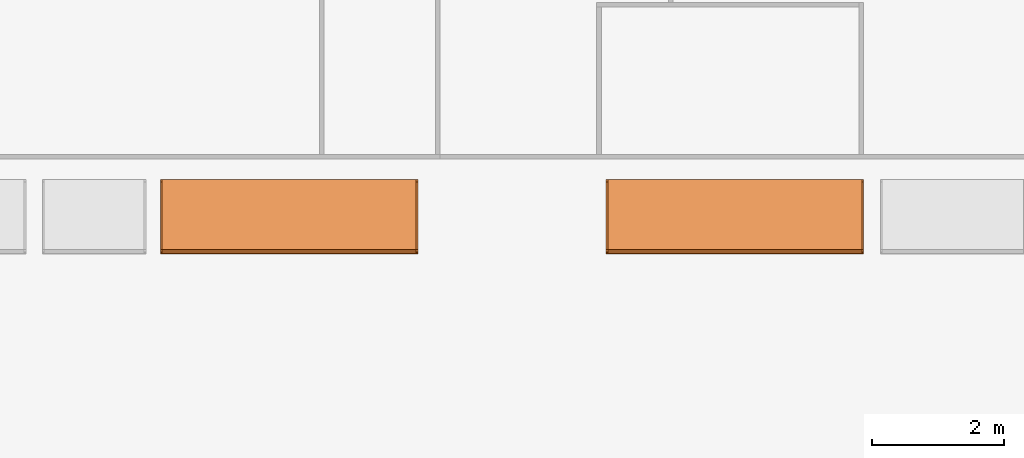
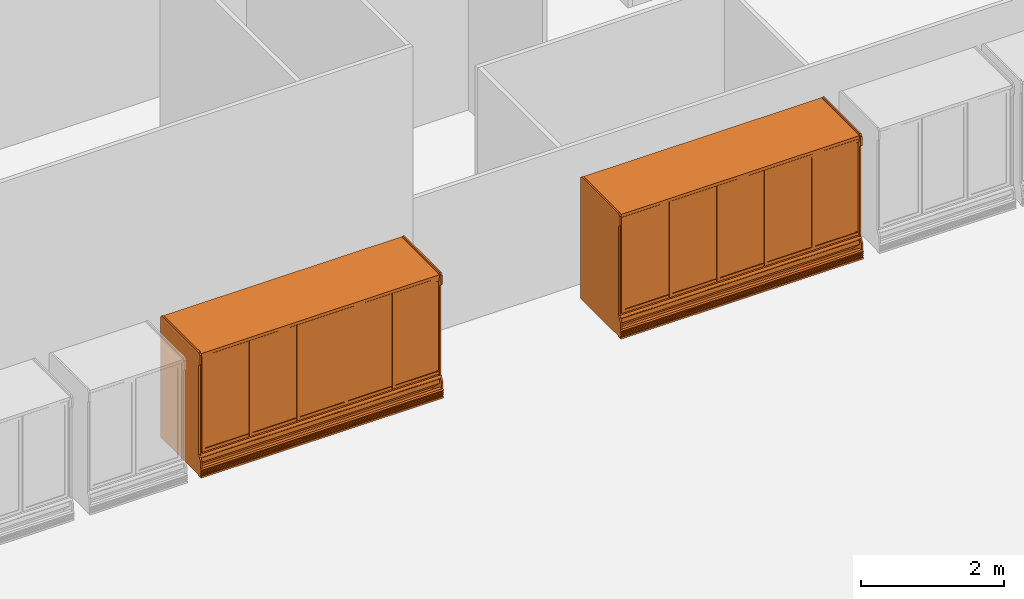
# One storey, part 7 of 11: 2 proxies.
"""IFC2X3 building model written with IfcOpenShell, lengths in metres."""

from ifc_helpers import new_model, entity, si_unit, converted_unit, derived_unit, direction, frame, frame_2d, origin, origin_2d_with_axis, place, context, subcontext, project, spatial, polyline, circle_curve, parameter, trimmed, segment, composite_curve, rectangle, outline, extrude, source, transform, mapped, material, material_list, type_object, type_shapes, element, save


model = new_model("IFC2X3")

# Units and contexts
model_context = context("Model", 3, precision=1e-05, world=origin(), true_north=direction((6.12303176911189e-17, 1.0)))
body_context = subcontext(model_context, "Body", "Model", "MODEL_VIEW")
ifc_project = project(units=[si_unit("LENGTHUNIT", "METRE"), si_unit("AREAUNIT", "SQUARE_METRE"), si_unit("VOLUMEUNIT", "CUBIC_METRE"), converted_unit("PLANEANGLEUNIT", "DEGREE", entity("IfcRatioMeasure", 0.0174532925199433), si_unit("PLANEANGLEUNIT", "RADIAN"), dimensions=[0, 0, 0, 0, 0, 0, 0]), si_unit("MASSUNIT", "GRAM", prefix="KILO"), derived_unit("MASSDENSITYUNIT", [(si_unit("MASSUNIT", "GRAM", prefix="KILO"), 1), (si_unit("LENGTHUNIT", "METRE"), -3)]), si_unit("TIMEUNIT", "SECOND"), si_unit("FREQUENCYUNIT", "HERTZ"), si_unit("THERMODYNAMICTEMPERATUREUNIT", "DEGREE_CELSIUS"), derived_unit("THERMALTRANSMITTANCEUNIT", [(si_unit("MASSUNIT", "GRAM", prefix="KILO"), 1), (si_unit("THERMODYNAMICTEMPERATUREUNIT", "KELVIN"), -1), (si_unit("TIMEUNIT", "SECOND"), -3)]), derived_unit("VOLUMETRICFLOWRATEUNIT", [(si_unit("LENGTHUNIT", "METRE"), 3), (si_unit("TIMEUNIT", "SECOND"), -1)]), si_unit("ELECTRICCURRENTUNIT", "AMPERE"), si_unit("ELECTRICVOLTAGEUNIT", "VOLT"), si_unit("POWERUNIT", "WATT"), si_unit("FORCEUNIT", "NEWTON", prefix="KILO"), si_unit("ILLUMINANCEUNIT", "LUX"), si_unit("LUMINOUSFLUXUNIT", "LUMEN"), si_unit("LUMINOUSINTENSITYUNIT", "CANDELA"), derived_unit("USERDEFINED", [(si_unit("MASSUNIT", "GRAM", prefix="KILO"), -1), (si_unit("LENGTHUNIT", "METRE"), -2), (si_unit("TIMEUNIT", "SECOND"), 3), (si_unit("LUMINOUSFLUXUNIT", "LUMEN"), 1)]), derived_unit("LINEARVELOCITYUNIT", [(si_unit("LENGTHUNIT", "METRE"), 1), (si_unit("TIMEUNIT", "SECOND"), -1)]), si_unit("PRESSUREUNIT", "PASCAL"), derived_unit("USERDEFINED", [(si_unit("LENGTHUNIT", "METRE"), -2), (si_unit("MASSUNIT", "GRAM", prefix="KILO"), 1), (si_unit("TIMEUNIT", "SECOND"), -2)])], contexts=[model_context])

# Site, building, storey
site_placement = place(None, origin())
site = spatial("IfcSite", under=ifc_project, at=site_placement, Name="Default", CompositionType="ELEMENT")
building_placement = place(site_placement, origin())
building = spatial("IfcBuilding", under=site, at=building_placement, CompositionType="ELEMENT")
storey_placement = place(building_placement, frame((0.0, 0.0, 1.49233632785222)))
storey = spatial("IfcBuildingStorey", under=building, at=storey_placement, Name="Niveau 0", CompositionType="ELEMENT", Elevation=1.49233632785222)

# Proxies
ifc_material_1 = material(Name="Métal - Chrome")
ifc_material_2 = material(Name="Verre")
ifc_material_3 = material(Name="Peinture - Blanc")
ifc_material_4 = material(Name="Peinture - Gris foncé")
ifc_material_list_1 = material_list([ifc_material_1, ifc_material_2, ifc_material_3, ifc_material_4])
ifc_material_list_2 = material_list([ifc_material_1, ifc_material_2, ifc_material_3, ifc_material_4])
building_element_proxy_type = type_object("IfcBuildingElementProxyType", Name="Longueur 3910 mm", PredefinedType="NOTDEFINED", material=ifc_material_list_2)
shared_shape = source(origin(), body_context, "Body", "SweptSolid", [
    extrude(outline(polyline([(-0.3937, -0.819150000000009), (0.3683, -0.819150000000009), (0.3683, -0.768350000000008), (-0.3429, -0.768350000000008), (-0.3429, 0.768350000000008), (0.3683, 0.768350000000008), (0.3683, 0.819150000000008), (-0.3937, 0.819150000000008), (-0.3937, -0.819150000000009)])), frame((0.211931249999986, 0.0126999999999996, 1.18745000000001), z_axis=(0.0, 1.0, 0.0), x_axis=(1.0, 0.0, 0.0)), (0.0, 0.0, 1.0), 0.0253999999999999),
    extrude(outline(polyline([(-0.3937, -0.819150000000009), (0.3683, -0.819150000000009), (0.3683, -0.768350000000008), (-0.3429, -0.768350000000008), (-0.3429, 0.768350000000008), (0.3683, 0.768350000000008), (0.3683, 0.819150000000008), (-0.3937, 0.819150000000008), (-0.3937, -0.819150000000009)])), frame((-0.556418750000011, 0.0126999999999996, 1.18745000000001), z_axis=(0.0, 1.0, 0.0), x_axis=(1.0, 0.0, 0.0)), (0.0, 0.0, 1.0), 0.0253999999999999),
    extrude(outline(polyline([(-0.3937, -0.819150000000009), (0.3683, -0.819150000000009), (0.3683, -0.768350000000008), (-0.3429, -0.768350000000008), (-0.3429, 0.768350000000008), (0.3683, 0.768350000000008), (0.3683, 0.819150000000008), (-0.3937, 0.819150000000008), (-0.3937, -0.819150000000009)])), frame((-1.32476875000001, 0.0126999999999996, 1.18745000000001), z_axis=(0.0, 1.0, 0.0), x_axis=(1.0, 0.0, 0.0)), (0.0, 0.0, 1.0), 0.0253999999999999),
    extrude(outline(polyline([(-0.3937, -0.819150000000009), (0.3683, -0.819150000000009), (0.3683, -0.768350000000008), (-0.3429, -0.768350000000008), (-0.3429, 0.768350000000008), (0.3683, 0.768350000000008), (0.3683, 0.819150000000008), (-0.3937, 0.819150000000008), (-0.3937, -0.819150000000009)])), frame((-2.09311875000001, 0.0126999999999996, 1.18745000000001), z_axis=(0.0, 1.0, 0.0), x_axis=(1.0, 0.0, 0.0)), (0.0, 0.0, 1.0), 0.0253999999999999),
    extrude(outline(polyline([(-0.902820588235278, -0.201945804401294), (-0.902820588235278, -0.214645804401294), (0.82437941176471, -0.214645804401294), (0.82437941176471, -0.201945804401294), (0.608479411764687, -0.201945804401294), (0.608479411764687, -0.0898341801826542), (0.589429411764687, -0.070784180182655), (0.589429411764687, 0.303324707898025), (0.570379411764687, 0.312207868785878), (0.570379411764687, -0.201945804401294), (0.316379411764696, -0.201945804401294), (0.316379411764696, -0.0851023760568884), (0.297329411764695, -0.0660523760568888), (0.297329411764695, 0.303324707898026), (0.278279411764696, 0.312207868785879), (0.278279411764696, -0.201945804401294), (0.0242794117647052, -0.201945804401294), (0.0242794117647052, -0.0803705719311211), (0.00522941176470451, -0.0613205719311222), (0.00522941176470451, 0.391796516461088), (-0.0138205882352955, 0.40067967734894), (-0.0138205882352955, -0.201945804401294), (-0.267820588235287, -0.201945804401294), (-0.267820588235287, -0.0851023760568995), (-0.286870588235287, -0.0660523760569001), (-0.286870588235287, 0.391796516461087), (-0.305920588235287, 0.400679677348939), (-0.305920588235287, -0.201945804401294), (-0.559920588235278, -0.201945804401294), (-0.559920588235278, -0.0803705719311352), (-0.578970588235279, -0.0613205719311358), (-0.578970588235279, 0.387979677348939), (-0.598020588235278, 0.394954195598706), (-0.598020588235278, -0.201945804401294), (-0.902820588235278, -0.201945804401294)])), frame((-2.10542815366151, 0.69975419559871, 1.12917941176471), z_axis=(-1.0, 0.0, 0.0), x_axis=(0.0, 0.0, -1.0)), (0.0, 0.0, -1.0), 0.0119188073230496),
    extrude(outline(polyline([(-0.902820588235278, -0.201945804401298), (-0.902820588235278, -0.214645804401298), (0.82437941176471, -0.214645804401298), (0.82437941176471, -0.201945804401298), (0.608479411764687, -0.201945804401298), (0.608479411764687, -0.089834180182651), (0.589429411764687, -0.0707841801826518), (0.589429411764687, 0.303324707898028), (0.570379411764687, 0.312207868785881), (0.570379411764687, -0.201945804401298), (0.316379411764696, -0.201945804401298), (0.316379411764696, -0.0851023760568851), (0.297329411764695, -0.0660523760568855), (0.297329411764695, 0.303324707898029), (0.278279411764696, 0.312207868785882), (0.278279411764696, -0.201945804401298), (0.0242794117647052, -0.201945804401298), (0.0242794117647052, -0.0803705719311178), (0.00522941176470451, -0.0613205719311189), (0.00522941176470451, 0.391796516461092), (-0.0138205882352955, 0.400679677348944), (-0.0138205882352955, -0.201945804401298), (-0.267820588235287, -0.201945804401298), (-0.267820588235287, -0.0851023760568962), (-0.286870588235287, -0.0660523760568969), (-0.286870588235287, 0.39179651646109), (-0.305920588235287, 0.400679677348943), (-0.305920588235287, -0.201945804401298), (-0.559920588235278, -0.201945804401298), (-0.559920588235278, -0.0803705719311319), (-0.578970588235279, -0.0613205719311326), (-0.578970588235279, 0.387979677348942), (-0.598020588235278, 0.394954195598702), (-0.598020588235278, -0.201945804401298), (-0.902820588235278, -0.201945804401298)])), frame((-0.556028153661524, 0.699754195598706, 1.12917941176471), z_axis=(-1.0, 0.0, 0.0), x_axis=(0.0, 0.0, -1.0)), (0.0, 0.0, -1.0), 0.0119188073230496),
    extrude(outline(polyline([(-0.3937, -0.819150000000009), (0.3683, -0.819150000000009), (0.3683, -0.768350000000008), (-0.3429, -0.768350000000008), (-0.3429, 0.768350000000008), (0.3683, 0.768350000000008), (0.3683, 0.819150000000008), (-0.3937, 0.819150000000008), (-0.3937, -0.819150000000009)])), frame((-2.86146875, 0.0126999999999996, 1.18745000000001), z_axis=(0.0, 1.0, 0.0), x_axis=(1.0, 0.0, 0.0)), (0.0, 0.0, 1.0), 0.0253999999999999),
    extrude(rectangle(XDim=0.00634999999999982, YDim=2.20345000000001, at=frame_2d((-2.16840434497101e-18, 0.0), x_axis=(1.0, 0.0))), frame((-0.565943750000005, 0.0285749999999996, 0.419100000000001), z_axis=(0.0, 0.0, 1.0), x_axis=(0.0, 1.0, 0.0)), (0.0, 0.0, 1.0), 1.53670000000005),
    extrude(rectangle(XDim=0.00634999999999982, YDim=1.49224999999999, at=frame_2d((-2.16840434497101e-18, -1.11022302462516e-16), x_axis=(1.0, 0.0))), frame((-2.46459375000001, 0.0285749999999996, 0.4191), z_axis=(0.0, 0.0, 1.0), x_axis=(0.0, 1.0, 0.0)), (0.0, 0.0, 1.0), 1.53669999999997),
    extrude(outline(polyline([(-0.88265, -1.9304), (0.882649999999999, -1.9304), (0.88265, 1.9304), (-0.882649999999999, 1.9304), (-0.88265, -1.9304)]), holes=[polyline([(-0.806450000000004, -0.0190500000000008), (-0.806450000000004, 1.8923), (0.80645, 1.8923), (0.80645, -0.0190500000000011), (0.806449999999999, -1.8923), (-0.806450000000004, -1.8923), (-0.806450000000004, -0.0190500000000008)])]), frame((-1.35651875, 0.0380999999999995, 1.18745), z_axis=(0.0, 1.0, 0.0), x_axis=(0.0, 0.0, -1.0)), (0.0, 0.0, 1.0), 0.0381),
    extrude(outline(composite_curve([segment(trimmed(circle_curve(frame_2d((-0.0095885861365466, 0.0), x_axis=(1.0, 0.0)), 0.0327139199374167), [parameter(287.043889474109)], [parameter(72.9561105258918)], True, "PARAMETER"), True, "CONTINUOUS"), segment(polyline([(0.0, 0.0312771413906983), (0.0, -0.0312771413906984)]), True, "CONTINUOUS")], self_intersect=False)), frame((-3.28691875, 0.0, 0.324322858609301), z_axis=(1.0, 0.0, 0.0), x_axis=(0.0, -1.0, 0.0)), (0.0, 0.0, 1.0), 3.8608),
    extrude(outline(polyline([(-0.058322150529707, -0.045007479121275), (-0.0317412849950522, -0.045007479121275), (-0.0206789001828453, -0.0360006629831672), (-0.0312750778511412, -0.0229861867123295), (-0.0214265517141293, -0.0149676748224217), (-0.0108303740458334, -0.0279821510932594), (0.00394241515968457, -0.0159543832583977), (-0.00665376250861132, -0.00293990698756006), (0.00811902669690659, 0.0090878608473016), (0.0187152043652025, -0.00392661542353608), (0.0334879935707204, 0.00810115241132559), (0.0228918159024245, 0.0211156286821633), (0.0376646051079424, 0.0331433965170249), (0.0482607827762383, 0.0201289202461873), (0.0704563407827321, 0.0382001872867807), (0.0277861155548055, 0.0906087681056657), (-0.0903961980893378, -0.00561337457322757), (-0.058322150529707, -0.045007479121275)])), frame((-3.31231875, -0.052721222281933, 0.0787558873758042), z_axis=(1.0, 0.0, 0.0), x_axis=(0.0, -0.631378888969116, -0.775474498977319)), (0.0, 0.0, 1.0), 3.9116),
    extrude(outline(polyline([(-0.78162589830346, -1.01392662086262), (0.249253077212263, -1.01392662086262), (0.285174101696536, -0.978005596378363), (0.285174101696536, -0.825605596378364), (0.249253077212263, -0.789684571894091), (0.249253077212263, 0.736494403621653), (0.300053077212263, 0.824482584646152), (0.300053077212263, 0.939694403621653), (0.249253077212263, 0.939694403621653), (0.249253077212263, 1.07939440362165), (-0.817546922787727, 1.07939440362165), (-0.817546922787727, -0.978005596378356), (-0.78162589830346, -1.01392662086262)])), frame((0.573881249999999, 0.249253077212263, 1.09209440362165), z_axis=(1.0, 0.0, 0.0), x_axis=(0.0, -1.0, 0.0)), (0.0, 0.0, 1.0), 0.0253999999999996),
    extrude(outline(polyline([(-0.78162589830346, -1.01392662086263), (0.249253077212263, -1.01392662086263), (0.285174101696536, -0.97800559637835), (0.285174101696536, -0.825605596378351), (0.249253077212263, -0.789684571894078), (0.249253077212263, 0.736494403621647), (0.300053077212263, 0.824482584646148), (0.300053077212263, 0.939694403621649), (0.249253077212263, 0.939694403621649), (0.249253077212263, 1.07939440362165), (-0.817546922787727, 1.07939440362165), (-0.817546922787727, -0.97800559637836), (-0.78162589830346, -1.01392662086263)])), frame((-3.31231875, 0.249253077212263, 1.09209440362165), z_axis=(1.0, 0.0, 0.0), x_axis=(0.0, -1.0, 0.0)), (0.0, 0.0, 1.0), 0.0253999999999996),
    extrude(rectangle(XDim=3.8354, YDim=0.6096, at=origin_2d_with_axis()), frame((-1.35651875, 0.596900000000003, 0.558800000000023)), (0.0, 0.0, 1.0), 0.009525),
    extrude(rectangle(XDim=3.8354, YDim=0.6096, at=origin_2d_with_axis()), frame((-1.35651875, 0.596900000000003, 1.72719999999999)), (0.0, 0.0, 1.0), 0.009525),
    extrude(rectangle(XDim=3.8354, YDim=0.6096, at=origin_2d_with_axis()), frame((-1.35651875, 0.596900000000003, 1.4351)), (0.0, 0.0, 1.0), 0.009525),
    extrude(rectangle(XDim=3.8354, YDim=0.6096, at=frame_2d((0.0, -5.55111512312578e-17), x_axis=(1.0, 0.0))), frame((-1.35651875, 0.596900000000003, 1.14300000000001)), (0.0, 0.0, 1.0), 0.009525),
    extrude(rectangle(XDim=3.8354, YDim=0.6096, at=frame_2d((0.0, -5.55111512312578e-17), x_axis=(1.0, 0.0))), frame((-1.35651875, 0.596900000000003, 0.850900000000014)), (0.0, 0.0, 1.0), 0.009525),
    extrude(outline(polyline([(-0.902820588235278, -0.198746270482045), (-0.902820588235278, -0.211446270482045), (0.82437941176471, -0.211446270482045), (0.82437941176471, -0.198746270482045), (0.608479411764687, -0.198746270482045), (0.608479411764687, -0.0923601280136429), (0.589429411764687, -0.0733101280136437), (0.589429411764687, 0.300798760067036), (0.570379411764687, 0.309681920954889), (0.570379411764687, -0.198746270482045), (0.316379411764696, -0.198746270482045), (0.316379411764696, -0.0876283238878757), (0.297329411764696, -0.0685783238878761), (0.297329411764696, 0.300798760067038), (0.278279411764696, 0.309681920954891), (0.278279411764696, -0.198746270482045), (0.0242794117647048, -0.198746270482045), (0.0242794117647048, -0.082896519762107), (0.0052294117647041, -0.0638465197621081), (0.0052294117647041, 0.389270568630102), (-0.0138205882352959, 0.398153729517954), (-0.0138205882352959, -0.198746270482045), (-0.267820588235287, -0.198746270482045), (-0.267820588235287, -0.0876283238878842), (-0.286870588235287, -0.0685783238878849), (-0.286870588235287, 0.389270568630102), (-0.305920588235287, 0.398153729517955), (-0.305920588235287, -0.198746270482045), (-0.559920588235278, -0.198746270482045), (-0.559920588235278, -0.0828965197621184), (-0.578970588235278, -0.0638465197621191), (-0.578970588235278, 0.385453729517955), (-0.598020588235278, 0.398153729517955), (-0.598020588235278, -0.198746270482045), (-0.902820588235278, -0.198746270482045)])), frame((-1.36247815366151, 0.702953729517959, 1.12917941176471), z_axis=(-1.0, 0.0, 0.0), x_axis=(0.0, 0.0, -1.0)), (0.0, 0.0, -1.0), 0.0119188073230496),
    extrude(outline(polyline([(-0.902820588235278, -0.198746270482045), (-0.902820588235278, -0.211446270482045), (0.82437941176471, -0.211446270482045), (0.82437941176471, -0.198746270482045), (0.608479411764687, -0.198746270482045), (0.608479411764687, -0.0923601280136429), (0.589429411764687, -0.0733101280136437), (0.589429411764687, 0.300798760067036), (0.570379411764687, 0.309681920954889), (0.570379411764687, -0.198746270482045), (0.316379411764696, -0.198746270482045), (0.316379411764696, -0.0876283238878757), (0.297329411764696, -0.0685783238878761), (0.297329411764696, 0.300798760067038), (0.278279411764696, 0.309681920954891), (0.278279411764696, -0.198746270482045), (0.0242794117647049, -0.198746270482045), (0.0242794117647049, -0.082896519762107), (0.00522941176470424, -0.0638465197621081), (0.00522941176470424, 0.389270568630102), (-0.0138205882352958, 0.398153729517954), (-0.0138205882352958, -0.198746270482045), (-0.267820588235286, -0.198746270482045), (-0.267820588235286, -0.0876283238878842), (-0.286870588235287, -0.0685783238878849), (-0.286870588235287, 0.389270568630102), (-0.305920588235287, 0.398153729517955), (-0.305920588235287, -0.198746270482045), (-0.559920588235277, -0.198746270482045), (-0.559920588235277, -0.0828965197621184), (-0.578970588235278, -0.0638465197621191), (-0.578970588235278, 0.385453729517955), (-0.598020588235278, 0.398153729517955), (-0.598020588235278, -0.198746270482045), (-0.902820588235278, -0.198746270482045)])), frame((0.548481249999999, 0.702953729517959, 1.12917941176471), z_axis=(-1.0, 0.0, 0.0), x_axis=(0.0, 0.0, -1.0)), (0.0, 0.0, -1.0), 0.0126999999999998),
    extrude(outline(polyline([(-0.902820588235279, -0.198746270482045), (-0.902820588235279, -0.211446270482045), (0.824379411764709, -0.211446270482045), (0.824379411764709, -0.198746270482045), (0.608479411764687, -0.198746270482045), (0.608479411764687, -0.0923601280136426), (0.589429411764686, -0.0733101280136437), (0.589429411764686, 0.300798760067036), (0.570379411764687, 0.309681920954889), (0.570379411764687, -0.198746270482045), (0.316379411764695, -0.198746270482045), (0.316379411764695, -0.0876283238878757), (0.297329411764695, -0.0685783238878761), (0.297329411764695, 0.300798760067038), (0.278279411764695, 0.309681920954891), (0.278279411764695, -0.198746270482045), (0.0242794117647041, -0.198746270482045), (0.0242794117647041, -0.082896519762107), (0.00522941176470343, -0.0638465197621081), (0.00522941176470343, 0.389270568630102), (-0.0138205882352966, 0.398153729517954), (-0.0138205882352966, -0.198746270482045), (-0.267820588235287, -0.198746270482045), (-0.267820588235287, -0.0876283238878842), (-0.286870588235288, -0.0685783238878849), (-0.286870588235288, 0.389270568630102), (-0.305920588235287, 0.398153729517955), (-0.305920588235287, -0.198746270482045), (-0.559920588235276, -0.198746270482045), (-0.559920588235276, -0.0828965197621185), (-0.578970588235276, -0.0638465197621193), (-0.578970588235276, 0.385453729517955), (-0.598020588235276, 0.398153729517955), (-0.598020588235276, -0.198746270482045), (-0.902820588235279, -0.198746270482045)])), frame((-3.27421875, 0.702953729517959, 1.12917941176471), z_axis=(-1.0, 0.0, 0.0), x_axis=(0.0, 0.0, -1.0)), (0.0, 0.0, -1.0), 0.0127000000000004),
    extrude(outline(polyline([(-0.99836485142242, -0.344904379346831), (-0.947564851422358, -0.344904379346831), (-0.947564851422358, -0.192504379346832), (-0.960264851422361, -0.192504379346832), (-0.960264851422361, 0.569495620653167), (0.766935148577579, 0.569495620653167), (0.766935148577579, -0.306804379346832), (0.716135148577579, -0.306804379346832), (0.716135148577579, -0.344904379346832), (0.855178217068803, -0.344904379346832), (0.995535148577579, -0.204547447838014), (0.995535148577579, 0.721895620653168), (-0.99836485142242, 0.721895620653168), (-0.99836485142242, -0.344904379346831)])), frame((-3.28691875, 0.344904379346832, 1.07173514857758), z_axis=(1.0, 0.0, 0.0), x_axis=(0.0, 0.0, -1.0)), (0.0, 0.0, 1.0), 3.8608),
    extrude(rectangle(XDim=3.8608, YDim=0.85725, at=frame_2d((-3.33066907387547e-16, -5.55111512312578e-17), x_axis=(1.0, 0.0))), frame((-1.35651875, 0.619125, 0.0), z_axis=(0.0, 0.0, 1.0), x_axis=(-1.0, 0.0, 0.0)), (0.0, 0.0, 1.0), 0.0762),
])
type_shapes(building_element_proxy_type, [shared_shape])
proxy_1_placement = place(storey_placement, frame((11.0004232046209, -1.06468697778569, 0.0)))
element("IfcBuildingElementProxy", 1, at=proxy_1_placement, inside=storey, type_object=building_element_proxy_type, material=ifc_material_list_1, Name="Congélateur - Vertical cinq portes:Longueur 3910 mm", ObjectType="Congélateur - Vertical cinq portes:Longueur 3910 mm", context=body_context, shape_type="MappedRepresentation", body=[
    mapped(shared_shape, transform((0.0, 0.0, 0.0), scale=1.0)),
])
ifc_material_list_3 = material_list([ifc_material_1, ifc_material_2, ifc_material_3, ifc_material_4])
proxy_2_placement = place(storey_placement, frame((17.7734984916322, -1.06468697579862, 0.0)))
element("IfcBuildingElementProxy", 2, at=proxy_2_placement, inside=storey, type_object=building_element_proxy_type, material=ifc_material_list_3, Name="Congélateur - Vertical cinq portes:Longueur 3910 mm", ObjectType="Congélateur - Vertical cinq portes:Longueur 3910 mm", context=body_context, shape_type="MappedRepresentation", body=[
    mapped(shared_shape, transform((0.0, 0.0, 0.0), scale=1.0)),
])

save(model, "model.ifc")
